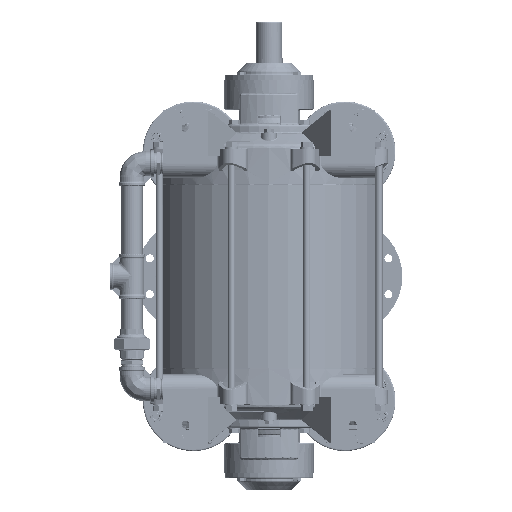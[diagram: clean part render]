
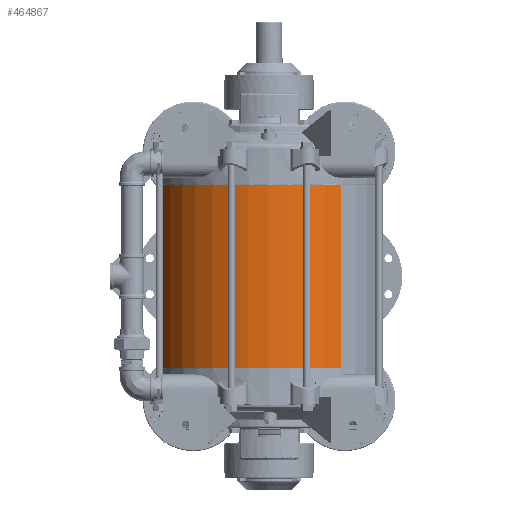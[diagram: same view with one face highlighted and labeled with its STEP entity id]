
A CAD part, front view. The second image highlights one B-rep face of the part: STEP entity #464867.
In plain terms, the highlighted cylindrical face has radius 254 mm (diameter 508 mm), a partial arc.
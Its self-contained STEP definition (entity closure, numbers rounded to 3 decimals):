
#10671 = VERTEX_POINT ( 'NONE', #124275 ) ;
#18764 = EDGE_CURVE ( 'NONE', #307556, #10671, #417752, .T. ) ;
#31156 = AXIS2_PLACEMENT_3D ( 'NONE', #133962, #389687, #437878 ) ;
#35883 = CARTESIAN_POINT ( 'NONE',  ( 225.872, -270.758, 157.5 ) ) ;
#36807 = LINE ( 'NONE', #261095, #391317 ) ;
#57628 = EDGE_CURVE ( 'NONE', #496326, #531408, #76542, .T. ) ;
#70530 = LINE ( 'NONE', #507976, #398157 ) ;
#74770 = DIRECTION ( 'NONE',  ( 0.636, -0.771, 0. ) ) ;
#76542 = CIRCLE ( 'NONE', #31156, 254. ) ;
#103171 = CYLINDRICAL_SURFACE ( 'NONE', #401582, 254. ) ;
#124275 = CARTESIAN_POINT ( 'NONE',  ( 549.201, -662.578, 157.5 ) ) ;
#133962 = CARTESIAN_POINT ( 'NONE',  ( 387.536, -466.668, -252.5 ) ) ;
#149704 = ORIENTED_EDGE ( 'NONE', *, *, #57628, .T. ) ;
#154393 = ORIENTED_EDGE ( 'NONE', *, *, #346931, .T. ) ;
#157004 = CARTESIAN_POINT ( 'NONE',  ( 387.536, -466.668, -252.5 ) ) ;
#197030 = DIRECTION ( 'NONE',  ( 0., 0., 1. ) ) ;
#207136 = ORIENTED_EDGE ( 'NONE', *, *, #18764, .F. ) ;
#216498 = ORIENTED_EDGE ( 'NONE', *, *, #270050, .F. ) ;
#234898 = CARTESIAN_POINT ( 'NONE',  ( 225.872, -270.758, -252.5 ) ) ;
#242470 = CARTESIAN_POINT ( 'NONE',  ( 387.536, -466.668, 157.5 ) ) ;
#261095 = CARTESIAN_POINT ( 'NONE',  ( 549.201, -662.578, -252.5 ) ) ;
#270050 = EDGE_CURVE ( 'NONE', #496326, #307556, #70530, .T. ) ;
#284843 = DIRECTION ( 'NONE',  ( 0., 0., 1. ) ) ;
#307556 = VERTEX_POINT ( 'NONE', #35883 ) ;
#335898 = AXIS2_PLACEMENT_3D ( 'NONE', #242470, #197030, #74770 ) ;
#346931 = EDGE_CURVE ( 'NONE', #531408, #10671, #36807, .T. ) ;
#364532 = DIRECTION ( 'NONE',  ( 0.636, -0.771, 0. ) ) ;
#389687 = DIRECTION ( 'NONE',  ( 0., 0., 1. ) ) ;
#391317 = VECTOR ( 'NONE', #482610, 1000. ) ;
#398157 = VECTOR ( 'NONE', #510750, 1000. ) ;
#401582 = AXIS2_PLACEMENT_3D ( 'NONE', #157004, #284843, #364532 ) ;
#417752 = CIRCLE ( 'NONE', #335898, 254. ) ;
#437878 = DIRECTION ( 'NONE',  ( 0.636, -0.771, 0. ) ) ;
#452527 = FACE_OUTER_BOUND ( 'NONE', #534178, .T. ) ;
#464867 = ADVANCED_FACE ( 'NONE', ( #452527 ), #103171, .T. ) ;
#482610 = DIRECTION ( 'NONE',  ( 0., 0., 1. ) ) ;
#496326 = VERTEX_POINT ( 'NONE', #234898 ) ;
#507976 = CARTESIAN_POINT ( 'NONE',  ( 225.872, -270.758, -252.5 ) ) ;
#510750 = DIRECTION ( 'NONE',  ( 0., 0., 1. ) ) ;
#531408 = VERTEX_POINT ( 'NONE', #560406 ) ;
#534178 = EDGE_LOOP ( 'NONE', ( #216498, #149704, #154393, #207136 ) ) ;
#560406 = CARTESIAN_POINT ( 'NONE',  ( 549.201, -662.578, -252.5 ) ) ;
